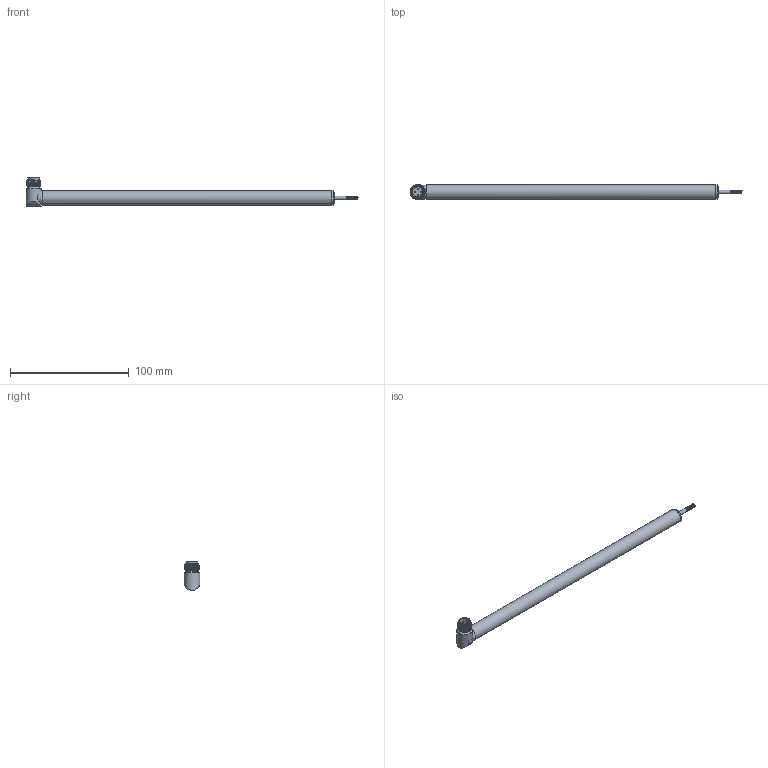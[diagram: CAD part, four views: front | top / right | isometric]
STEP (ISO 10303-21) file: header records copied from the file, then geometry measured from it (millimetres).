
FILE_DESCRIPTION( ( 'STEP AP214' ), '1' );
FILE_NAME( 'N:/Engineering/CAD_Solid/LVDT/SM/Kunden-3D-Modell/SM100-SG-SR.stp', '2011-12-12T13:38:16', ( ' ' ), ( ' ' ), 'XStep 1.0', ' ', ' ' );
FILE_SCHEMA( ( 'CONFIG_CONTROL_DESIGN) ( )' ) );
Length unit declared in the file: metre
Products named in the file (3): 1; 2; 3
Bounding box: 280 x 13 x 24.1 mm (x, y, z)
Surface area: 12347.9 mm2 (no closed solid volume)
Topology: 0 solids, 49 shells, 49 faces, 196 edges, 174 vertices
Faces by surface type: cylinder 20, plane 12, bspline 9, cone 8
Full cylindrical faces by diameter (mm): 1 x4, 2.4 x1, 3 x1, 8.5 x1, 10 x1, 10.6 x2, 11.8 x1, 12 x2, 13 x1
Entity records: 6534 total; most frequent: CARTESIAN_POINT 4762, DIRECTION 283, ORIENTED_EDGE 163, EDGE_CURVE 163, VERTEX_POINT 163, AXIS2_PLACEMENT_3D 131, CIRCLE 88, FACE_BOUND 84
